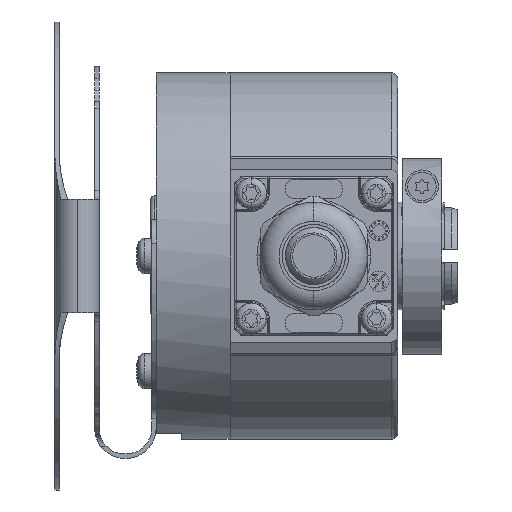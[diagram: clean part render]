
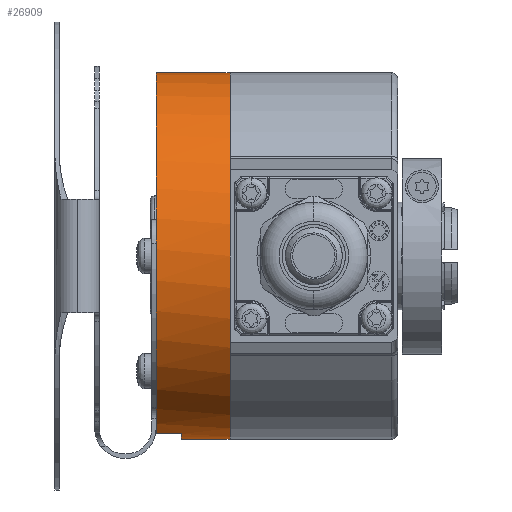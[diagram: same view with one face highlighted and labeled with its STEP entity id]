
A CAD part, front view. The second image highlights one B-rep face of the part: STEP entity #26909.
In plain terms, the highlighted cylindrical face has radius 29 mm (diameter 58 mm), a partial arc.
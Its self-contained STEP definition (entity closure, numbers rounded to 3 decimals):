
#1129 = CYLINDRICAL_SURFACE ( 'NONE', #4755, 29. ) ;
#1396 = DIRECTION ( 'NONE',  ( 0., 0., -1. ) ) ;
#1674 = VERTEX_POINT ( 'NONE', #5556 ) ;
#1920 = ORIENTED_EDGE ( 'NONE', *, *, #2512, .F. ) ;
#2172 = CARTESIAN_POINT ( 'NONE',  ( 8.068, 25.423, 0. ) ) ;
#2512 = EDGE_CURVE ( 'NONE', #22720, #1674, #4119, .T. ) ;
#2896 = CARTESIAN_POINT ( 'NONE',  ( -3.622, 25.423, 29. ) ) ;
#3885 = DIRECTION ( 'NONE',  ( 0., 0., 1. ) ) ;
#4119 = CIRCLE ( 'NONE', #13705, 29. ) ;
#4301 = DIRECTION ( 'NONE',  ( 1., 0., 0. ) ) ;
#4599 = DIRECTION ( 'NONE',  ( 1., 0., 0. ) ) ;
#4755 = AXIS2_PLACEMENT_3D ( 'NONE', #18020, #23760, #1396 ) ;
#4835 = AXIS2_PLACEMENT_3D ( 'NONE', #25299, #4599, #19026 ) ;
#5556 = CARTESIAN_POINT ( 'NONE',  ( 8.068, 25.423, -29. ) ) ;
#6133 = AXIS2_PLACEMENT_3D ( 'NONE', #8274, #4301, #3885 ) ;
#6843 = DIRECTION ( 'NONE',  ( 1., 0., 0. ) ) ;
#7162 = VECTOR ( 'NONE', #22356, 1000. ) ;
#7439 = CIRCLE ( 'NONE', #6133, 29. ) ;
#8182 = EDGE_CURVE ( 'NONE', #26962, #10175, #7439, .T. ) ;
#8274 = CARTESIAN_POINT ( 'NONE',  ( 0.378, 25.423, 0. ) ) ;
#8969 = EDGE_CURVE ( 'NONE', #9021, #16025, #20051, .T. ) ;
#9021 = VERTEX_POINT ( 'NONE', #2896 ) ;
#10024 = ORIENTED_EDGE ( 'NONE', *, *, #8182, .T. ) ;
#10175 = VERTEX_POINT ( 'NONE', #24141 ) ;
#11491 = EDGE_CURVE ( 'NONE', #9021, #22720, #26761, .T. ) ;
#12431 = LINE ( 'NONE', #14054, #7162 ) ;
#13187 = EDGE_CURVE ( 'NONE', #10175, #1674, #23190, .T. ) ;
#13473 = VECTOR ( 'NONE', #20099, 1000. ) ;
#13672 = CARTESIAN_POINT ( 'NONE',  ( 8.068, 25.423, 29. ) ) ;
#13705 = AXIS2_PLACEMENT_3D ( 'NONE', #2172, #23034, #20710 ) ;
#14054 = CARTESIAN_POINT ( 'NONE',  ( 8.068, 18.423, -28.142 ) ) ;
#15473 = FACE_OUTER_BOUND ( 'NONE', #17249, .T. ) ;
#16025 = VERTEX_POINT ( 'NONE', #22974 ) ;
#17184 = CARTESIAN_POINT ( 'NONE',  ( 8.068, 25.423, -29. ) ) ;
#17249 = EDGE_LOOP ( 'NONE', ( #22461, #25227, #22430, #10024, #24123, #1920 ) ) ;
#18020 = CARTESIAN_POINT ( 'NONE',  ( 8.068, 25.423, 0. ) ) ;
#19026 = DIRECTION ( 'NONE',  ( 0., 0., -1. ) ) ;
#19310 = EDGE_CURVE ( 'NONE', #26962, #16025, #12431, .T. ) ;
#20051 = CIRCLE ( 'NONE', #4835, 29. ) ;
#20099 = DIRECTION ( 'NONE',  ( 1., 0., 0. ) ) ;
#20710 = DIRECTION ( 'NONE',  ( 0., 0., -1. ) ) ;
#21285 = VECTOR ( 'NONE', #6843, 1000. ) ;
#22155 = CARTESIAN_POINT ( 'NONE',  ( 8.068, 25.423, 29. ) ) ;
#22356 = DIRECTION ( 'NONE',  ( -1., 0., 0. ) ) ;
#22430 = ORIENTED_EDGE ( 'NONE', *, *, #19310, .F. ) ;
#22461 = ORIENTED_EDGE ( 'NONE', *, *, #11491, .F. ) ;
#22720 = VERTEX_POINT ( 'NONE', #13672 ) ;
#22974 = CARTESIAN_POINT ( 'NONE',  ( -3.622, 18.423, -28.142 ) ) ;
#23034 = DIRECTION ( 'NONE',  ( 1., 0., 0. ) ) ;
#23190 = LINE ( 'NONE', #17184, #21285 ) ;
#23760 = DIRECTION ( 'NONE',  ( 1., 0., 0. ) ) ;
#24123 = ORIENTED_EDGE ( 'NONE', *, *, #13187, .T. ) ;
#24141 = CARTESIAN_POINT ( 'NONE',  ( 0.378, 25.423, -29. ) ) ;
#25227 = ORIENTED_EDGE ( 'NONE', *, *, #8969, .T. ) ;
#25299 = CARTESIAN_POINT ( 'NONE',  ( -3.622, 25.423, 0. ) ) ;
#26064 = CARTESIAN_POINT ( 'NONE',  ( 0.378, 18.423, -28.142 ) ) ;
#26761 = LINE ( 'NONE', #22155, #13473 ) ;
#26909 = ADVANCED_FACE ( 'NONE', ( #15473 ), #1129, .T. ) ;
#26962 = VERTEX_POINT ( 'NONE', #26064 ) ;
